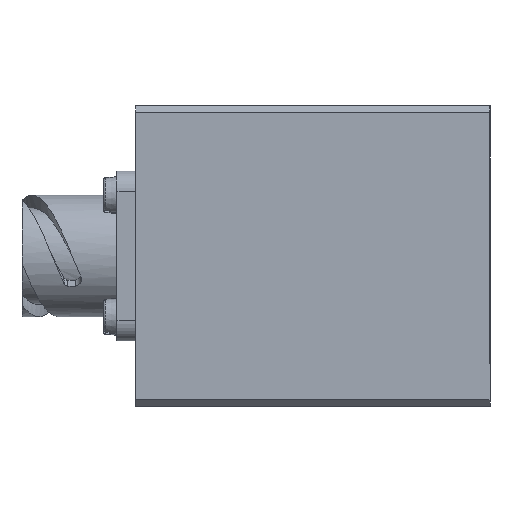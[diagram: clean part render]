
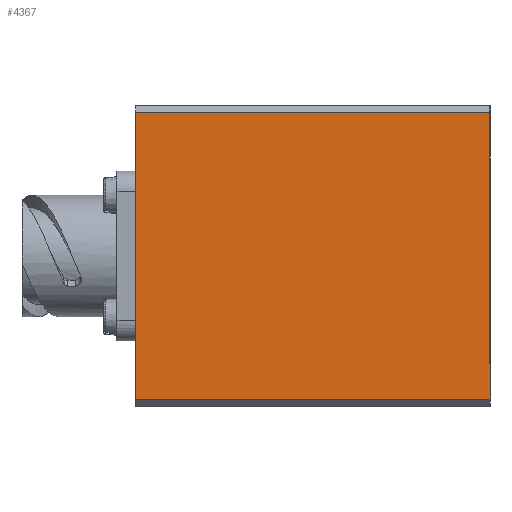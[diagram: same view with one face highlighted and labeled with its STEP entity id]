
A CAD part, front view. The second image highlights one B-rep face of the part: STEP entity #4367.
In plain terms, the highlighted planar face has unit normal (0, -1, 0).
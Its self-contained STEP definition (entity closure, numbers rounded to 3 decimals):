
#1318 = VERTEX_POINT ( 'NONE', #8849 ) ;
#2095 = FACE_OUTER_BOUND ( 'NONE', #5234, .T. ) ;
#2516 = CARTESIAN_POINT ( 'NONE',  ( 0., -22.5, 22.5 ) ) ;
#2531 = VERTEX_POINT ( 'NONE', #4493 ) ;
#3758 = CARTESIAN_POINT ( 'NONE',  ( 53., -22.5, -21.5 ) ) ;
#4121 = CARTESIAN_POINT ( 'NONE',  ( 0., -22.5, 21.5 ) ) ;
#4367 = ADVANCED_FACE ( 'NONE', ( #2095 ), #8865, .F. ) ;
#4486 = DIRECTION ( 'NONE',  ( 0., 1., 0. ) ) ;
#4493 = CARTESIAN_POINT ( 'NONE',  ( 53., -22.5, 21.5 ) ) ;
#4876 = VECTOR ( 'NONE', #12503, 1000. ) ;
#5068 = CARTESIAN_POINT ( 'NONE',  ( 53., -22.5, 21.5 ) ) ;
#5234 = EDGE_LOOP ( 'NONE', ( #16133, #18117, #17804, #7866 ) ) ;
#6997 = CARTESIAN_POINT ( 'NONE',  ( 53., -22.5, 22.5 ) ) ;
#7328 = VECTOR ( 'NONE', #16487, 1000. ) ;
#7341 = VERTEX_POINT ( 'NONE', #7997 ) ;
#7515 = VECTOR ( 'NONE', #16758, 1000. ) ;
#7583 = LINE ( 'NONE', #3758, #4876 ) ;
#7866 = ORIENTED_EDGE ( 'NONE', *, *, #9536, .T. ) ;
#7997 = CARTESIAN_POINT ( 'NONE',  ( 0., -22.5, -21.5 ) ) ;
#8849 = CARTESIAN_POINT ( 'NONE',  ( 53., -22.5, -21.5 ) ) ;
#8865 = PLANE ( 'NONE',  #16916 ) ;
#9536 = EDGE_CURVE ( 'NONE', #2531, #10144, #14911, .T. ) ;
#10144 = VERTEX_POINT ( 'NONE', #4121 ) ;
#10962 = LINE ( 'NONE', #2516, #7515 ) ;
#12503 = DIRECTION ( 'NONE',  ( 1., 0., 0. ) ) ;
#13034 = DIRECTION ( 'NONE',  ( 0., 0., 1. ) ) ;
#13118 = LINE ( 'NONE', #6997, #17815 ) ;
#14462 = CARTESIAN_POINT ( 'NONE',  ( 53., -22.5, 22.5 ) ) ;
#14626 = EDGE_CURVE ( 'NONE', #10144, #7341, #10962, .T. ) ;
#14911 = LINE ( 'NONE', #5068, #7328 ) ;
#16059 = EDGE_CURVE ( 'NONE', #2531, #1318, #13118, .T. ) ;
#16133 = ORIENTED_EDGE ( 'NONE', *, *, #14626, .T. ) ;
#16487 = DIRECTION ( 'NONE',  ( -1., 0., 0. ) ) ;
#16758 = DIRECTION ( 'NONE',  ( 0., 0., -1. ) ) ;
#16916 = AXIS2_PLACEMENT_3D ( 'NONE', #14462, #4486, #13034 ) ;
#17471 = DIRECTION ( 'NONE',  ( 0., 0., -1. ) ) ;
#17804 = ORIENTED_EDGE ( 'NONE', *, *, #16059, .F. ) ;
#17815 = VECTOR ( 'NONE', #17471, 1000. ) ;
#18117 = ORIENTED_EDGE ( 'NONE', *, *, #18224, .T. ) ;
#18224 = EDGE_CURVE ( 'NONE', #7341, #1318, #7583, .T. ) ;
